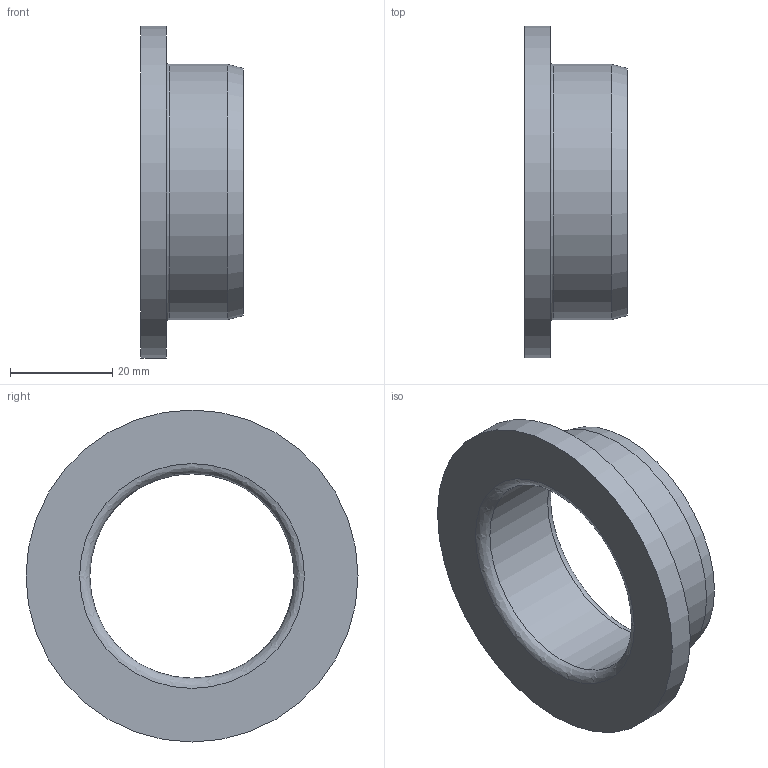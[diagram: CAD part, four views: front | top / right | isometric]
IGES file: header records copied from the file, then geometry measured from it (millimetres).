
Global section: file name: BG07.040020.ipt; native system: Autodesk Inventor 2021; preprocessor: unknown; author: SM; date: 20211217.164556; units: millimetre
Bounding box: 20 x 65 x 65 mm (x, y, z)
Volume: 20515.5 mm3; surface area: 9645.9 mm2
Topology: 1 solids, 1 shells, 10 faces, 25 edges, 18 vertices
Faces by surface type: revolution 4, plane 3, cylinder 2, cone 1
Full cylindrical faces by diameter (mm): 50 x1, 65 x1
